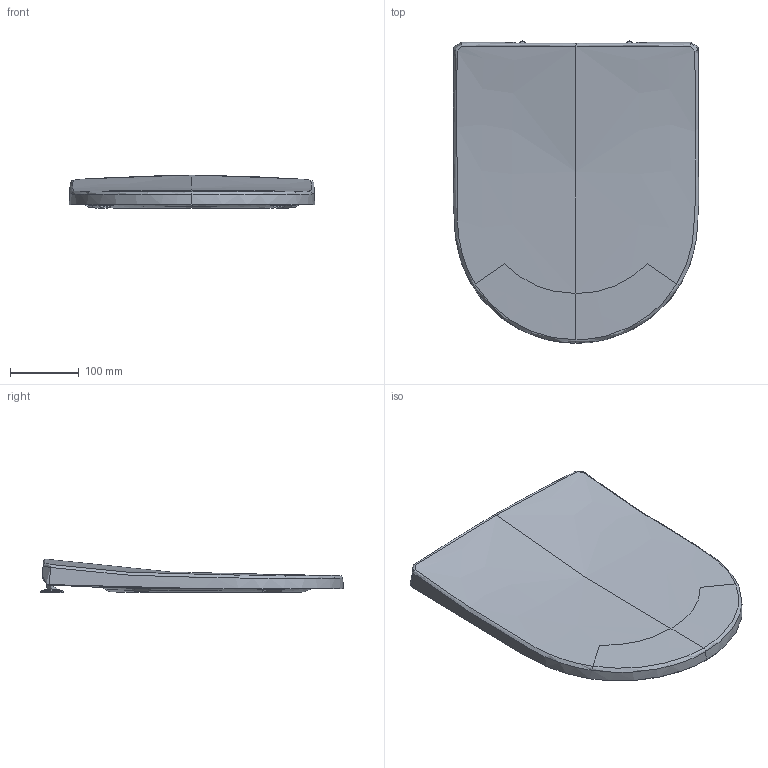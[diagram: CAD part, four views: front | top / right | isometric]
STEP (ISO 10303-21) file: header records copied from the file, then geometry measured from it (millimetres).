
FILE_DESCRIPTION(/* description */ (''),/* implementation_level */ '2;1');
FILE_NAME(/* name */ 'C:\Planerdaten\Export PLA\500.604.01.1\stp\500605.stp',/* time_stamp */ '2020-02-24T08:15:20+01:00',/* author */ ('JANAN'),/* organization */ (''),/* preprocessor_version */ 'ST-DEVELOPER v16.13',/* originating_system */ 'Autodesk Inventor 2018',/* authorisation */ '');
FILE_SCHEMA (('AUTOMOTIVE_DESIGN { 1 0 10303 214 3 1 1 }'));
Products named in the file (1): WC-Sitz Ge+Acn Bef-o AbsA QRel
Bounding box: 356.05 x 439.47 x 48.62 mm (x, y, z)
Volume: 1467220.7 mm3; surface area: 526764.5 mm2
Topology: 1 solids, 13 shells, 710 faces, 1797 edges, 1105 vertices
Faces by surface type: bspline 362, plane 168, cylinder 132, cone 34, torus 12, sphere 2
Full cylindrical faces by diameter (mm): 6.1 x2, 6.3 x2, 8.6 x2, 9 x2, 11.1 x1, 14 x2, 16 x2, 25.5 x2, 32 x2, 33 x2
Entity records: 87524 total; most frequent: CARTESIAN_POINT 72558, ORIENTED_EDGE 3432, DIRECTION 2167, EDGE_CURVE 1716, VERTEX_POINT 1089, AXIS2_PLACEMENT_3D 833, EDGE_LOOP 785, STYLED_ITEM 711
